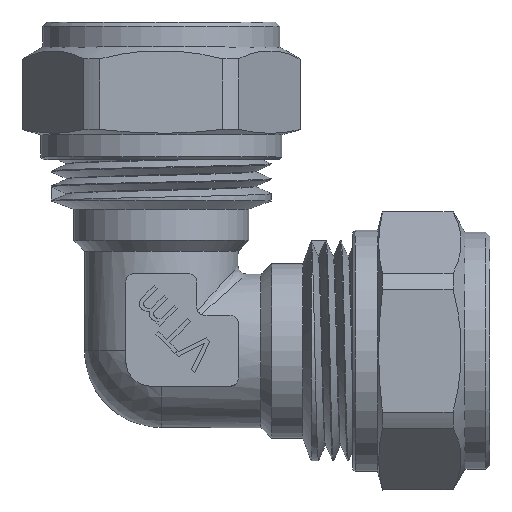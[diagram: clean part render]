
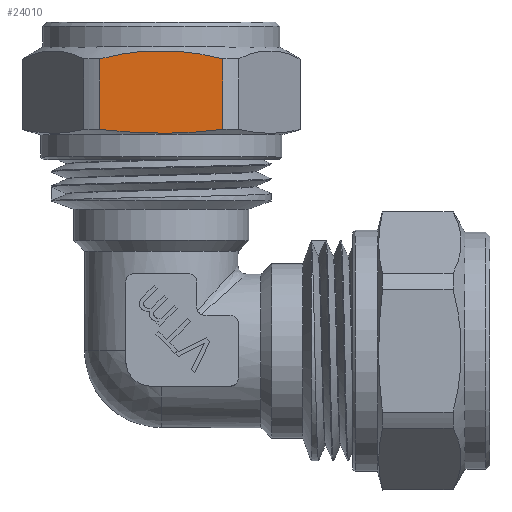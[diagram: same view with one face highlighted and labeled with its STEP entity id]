
A CAD part, top view. The second image highlights one B-rep face of the part: STEP entity #24010.
In plain terms, the highlighted planar face has unit normal (0, 0, 1).
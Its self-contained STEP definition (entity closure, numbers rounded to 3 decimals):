
#90=(
BOUNDED_CURVE()
B_SPLINE_CURVE(2,(#42245,#42246,#42247),.UNSPECIFIED.,.F.,.F.)
B_SPLINE_CURVE_WITH_KNOTS((3,3),(0.,1.479),.UNSPECIFIED.)
CURVE()
GEOMETRIC_REPRESENTATION_ITEM()
RATIONAL_B_SPLINE_CURVE((1.,1.114,1.))
REPRESENTATION_ITEM('')
);
#91=(
BOUNDED_CURVE()
B_SPLINE_CURVE(2,(#42251,#42252,#42253),.UNSPECIFIED.,.F.,.F.)
B_SPLINE_CURVE_WITH_KNOTS((3,3),(0.,1.489),.UNSPECIFIED.)
CURVE()
GEOMETRIC_REPRESENTATION_ITEM()
RATIONAL_B_SPLINE_CURVE((1.,1.114,1.))
REPRESENTATION_ITEM('')
);
#370=PLANE('',#25186);
#1879=FACE_OUTER_BOUND('',#3260,.T.);
#3260=EDGE_LOOP('',(#18748,#18749,#18750,#18751));
#6887=LINE('',#42249,#8533);
#6888=LINE('',#42254,#8534);
#8533=VECTOR('',#27445,10.);
#8534=VECTOR('',#27446,10.);
#10525=VERTEX_POINT('',#42243);
#10526=VERTEX_POINT('',#42244);
#10527=VERTEX_POINT('',#42248);
#10528=VERTEX_POINT('',#42250);
#13551=EDGE_CURVE('',#10525,#10526,#90,.T.);
#13552=EDGE_CURVE('',#10527,#10525,#6887,.T.);
#13553=EDGE_CURVE('',#10528,#10527,#91,.T.);
#13554=EDGE_CURVE('',#10526,#10528,#6888,.T.);
#18748=ORIENTED_EDGE('',*,*,#13551,.F.);
#18749=ORIENTED_EDGE('',*,*,#13552,.F.);
#18750=ORIENTED_EDGE('',*,*,#13553,.F.);
#18751=ORIENTED_EDGE('',*,*,#13554,.F.);
#24010=ADVANCED_FACE('',(#1879),#370,.F.);
#25186=AXIS2_PLACEMENT_3D('',#42242,#27443,#27444);
#27443=DIRECTION('center_axis',(0.,0.,
-1.));
#27444=DIRECTION('ref_axis',(1.,0.,0.));
#27445=DIRECTION('',(0.,-1.,0.));
#27446=DIRECTION('',(0.,1.,0.));
#42242=CARTESIAN_POINT('Origin',(-7.454,39.481,15.));
#42243=CARTESIAN_POINT('',(7.38,26.575,15.));
#42244=CARTESIAN_POINT('',(-7.38,26.575,15.));
#42245=CARTESIAN_POINT('Ctrl Pts',(7.38,26.575,15.));
#42246=CARTESIAN_POINT('Ctrl Pts',(0.,25.702,
15.));
#42247=CARTESIAN_POINT('Ctrl Pts',(-7.38,26.575,15.));
#42248=CARTESIAN_POINT('',(7.38,35.057,15.));
#42249=CARTESIAN_POINT('',(7.38,30.816,15.));
#42250=CARTESIAN_POINT('',(-7.38,35.057,15.));
#42251=CARTESIAN_POINT('Ctrl Pts',(-7.38,35.057,15.));
#42252=CARTESIAN_POINT('Ctrl Pts',(0.,36.938,
15.));
#42253=CARTESIAN_POINT('Ctrl Pts',(7.38,35.057,15.));
#42254=CARTESIAN_POINT('',(-7.38,30.816,15.));
